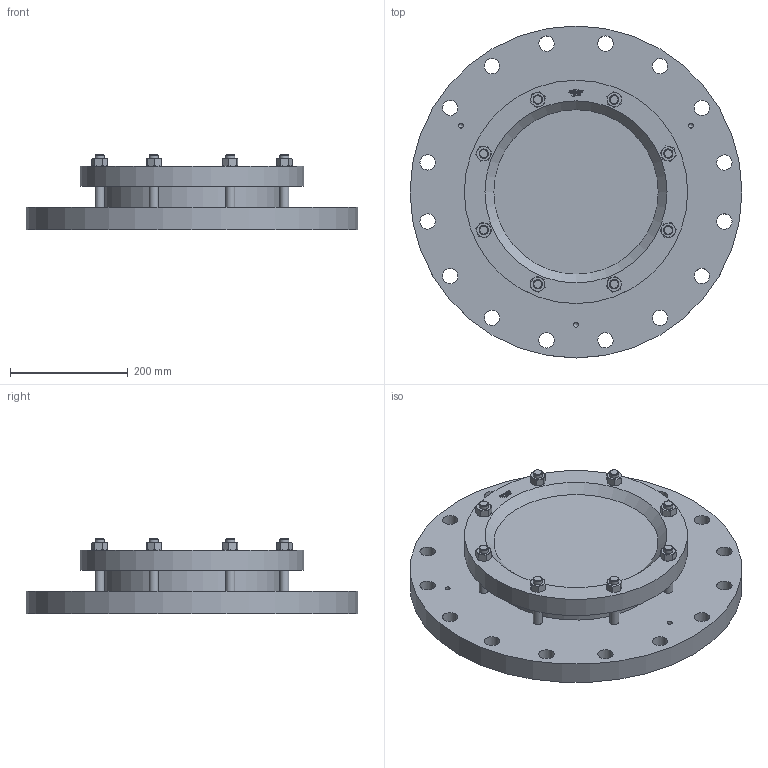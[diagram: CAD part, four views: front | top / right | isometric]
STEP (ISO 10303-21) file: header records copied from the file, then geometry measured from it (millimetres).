
FILE_DESCRIPTION(/* description */ (''),/* implementation_level */ '2;1');
FILE_NAME(/* name */ 'W:\Konstruktion_ACI\325\_STEP\325-400-10.stp',/* time_stamp */ '2022-03-02T17:08:50+01:00',/* author */ ('koslowksi'),/* organization */ (''),/* preprocessor_version */ 'ST-DEVELOPER v16.1',/* originating_system */ 'Autodesk Inventor 2016',/* authorisation */ '');
FILE_SCHEMA (('AUTOMOTIVE_DESIGN { 1 0 10303 214 3 1 1 }'));
Length unit declared in the file: millimetre
Products named in the file (1): 325-400-10
Bounding box: 565 x 565 x 128 mm (x, y, z)
Volume: 14763782.2 mm3; surface area: 788675.4 mm2
Topology: 1 solids, 1 shells, 453 faces, 1156 edges, 743 vertices
Faces by surface type: plane 199, cone 108, bspline 108, cylinder 38
Full cylindrical faces by diameter (mm): 8.376 x3, 16 x16, 26 x16, 304 x1, 380 x1, 565 x1
Entity records: 14010 total; most frequent: CARTESIAN_POINT 4037, ORIENTED_EDGE 2158, DIRECTION 1545, EDGE_CURVE 1079, VERTEX_POINT 716, EDGE_LOOP 589, AXIS2_PLACEMENT_3D 528, LINE 489
